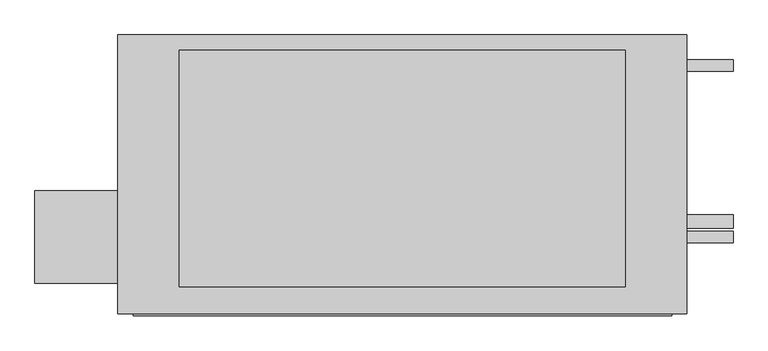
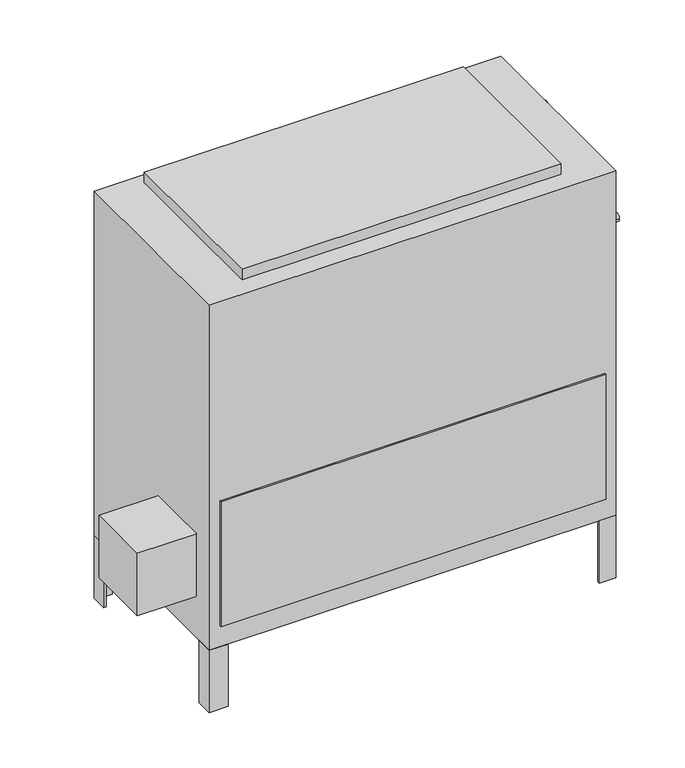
"""IFC4 building model written with IfcOpenShell, lengths in millimetres: proxy geometry, Concealed_High_Capacity_Vertical_Fan_Coil_Unit_-_42DDA_-_CARRIER_-_2-Pipe_Cool-EHeat_RH_2022 : Size 12 - 277v/60Hz/1Ph - 6 Row 9.0kW."""

from ifc_helpers import new_model, si_unit, point, frame, frame_2d, origin, origin_with_axes, place, context, project, spatial, polyline, circle_curve, trimmed, segment, composite_curve, outline, extrude, source, transform, mapped, element, save


def mechanical_equipment_580314c3(model_context):
    return source(origin(), model_context, "Body", "SweptSolid", [
        extrude(outline(polyline([(-454.025, -417.5125), (-454.025, -265.1125), (-317.5, -265.1125), (-317.5, -417.5125), (-454.025, -417.5125)])), frame((0.0, 0.0, 101.6), z_axis=(0.0, 0.0, 1.0), x_axis=(1.0, 0.0, 0.0)), (0.0, 0.0, 1.0), 152.4),
        extrude(outline(polyline([(622.3, -46.0375), (615.95, -46.0375), (615.95, -14.2875), (584.2, -14.2875), (584.2, -7.9375), (622.3, -7.9375), (622.3, -46.0375)])), frame((0.0, 0.0, -152.4), z_axis=(0.0, 0.0, 1.0), x_axis=(1.0, 0.0, 0.0)), (0.0, 0.0, 1.0), 152.4),
        extrude(outline(polyline([(-279.4, -7.9375), (-279.4, -14.2875), (-311.15, -14.2875), (-311.15, -46.0375), (-317.5, -46.0375), (-317.5, -7.9375), (-279.4, -7.9375)])), frame((0.0, 0.0, -152.4), z_axis=(0.0, 0.0, 1.0), x_axis=(1.0, 0.0, 0.0)), (0.0, 0.0, 1.0), 152.4),
        extrude(outline(polyline([(584.2, -468.3125), (584.2, -461.9625), (615.95, -461.9625), (615.95, -430.2125), (622.3, -430.2125), (622.3, -468.3125), (584.2, -468.3125)])), frame((0.0, 0.0, -152.4), z_axis=(0.0, 0.0, 1.0), x_axis=(1.0, 0.0, 0.0)), (0.0, 0.0, 1.0), 152.4),
        extrude(outline(polyline([(-317.5, -428.1199163), (-311.15, -428.1199163), (-311.15, -461.9625), (-274.0318533, -461.9625), (-274.0318533, -468.3125), (-317.5, -468.3125), (-317.5, -428.1199163)])), frame((0.0, 0.0, -152.4), z_axis=(0.0, 0.0, 1.0), x_axis=(1.0, 0.0, 0.0)), (0.0, 0.0, 1.0), 152.4),
        extrude(outline(polyline([(520.7, -33.3375), (520.7, -423.8625), (-215.9, -423.8625), (-215.9, -33.3375), (520.7, -33.3375)])), frame((0.0, 0.0, 841.375), z_axis=(0.0, 0.0, 1.0), x_axis=(1.0, 0.0, 0.0)), (0.0, 0.0, 1.0), 25.4),
        extrude(outline(polyline([(596.9, -471.4875), (-292.1, -471.4875), (-292.1, -468.3125), (596.9, -468.3125), (596.9, -471.4875)])), frame((0.0, 0.0, 50.8), z_axis=(0.0, 0.0, 1.0), x_axis=(1.0, 0.0, 0.0)), (0.0, 0.0, 1.0), 304.8),
        extrude(outline(composite_curve([segment(trimmed(circle_curve(frame_2d((-58.7375, 727.075)), 9.525), [point((-49.2125, 727.075))], [point((-68.2625, 727.075))], False, "CARTESIAN"), True, "CONTINUOUS"), segment(trimmed(circle_curve(frame_2d((-58.7375, 727.075)), 9.525), [point((-68.2625, 727.075))], [point((-49.2125, 727.075))], False, "CARTESIAN"), True, "CONTINUOUS")], self_intersect=False)), frame((622.3, 0.0, 0.0), z_axis=(1.0, 0.0, 0.0), x_axis=(0.0, 1.0, 0.0)), (0.0, 0.0, 1.0), 76.2),
        extrude(outline(composite_curve([segment(trimmed(circle_curve(frame_2d((-341.3125, 625.475)), 9.525), [point((-331.7875, 625.475))], [point((-350.8375, 625.475))], False, "CARTESIAN"), True, "CONTINUOUS"), segment(trimmed(circle_curve(frame_2d((-341.3125, 625.475)), 9.525), [point((-350.8375, 625.475))], [point((-331.7875, 625.475))], False, "CARTESIAN"), True, "CONTINUOUS")], self_intersect=False)), frame((622.3, 0.0, 0.0), z_axis=(1.0, 0.0, 0.0), x_axis=(0.0, 1.0, 0.0)), (0.0, 0.0, 1.0), 76.2),
        extrude(outline(composite_curve([segment(trimmed(circle_curve(frame_2d((-315.9125, 536.575)), 11.1125), [point((-304.8, 536.575))], [point((-327.025, 536.575))], False, "CARTESIAN"), True, "CONTINUOUS"), segment(trimmed(circle_curve(frame_2d((-315.9125, 536.575)), 11.1125), [point((-327.025, 536.575))], [point((-304.8, 536.575))], False, "CARTESIAN"), True, "CONTINUOUS")], self_intersect=False)), frame((622.3, 0.0, 0.0), z_axis=(1.0, 0.0, 0.0), x_axis=(0.0, 1.0, 0.0)), (0.0, 0.0, 1.0), 76.2),
        extrude(outline(polyline([(622.3, -7.9375), (622.3, -468.3125), (-317.5, -468.3125), (-317.5, -7.9375), (622.3, -7.9375)])), origin_with_axes(), (0.0, 0.0, 1.0), 841.375),
    ])


if __name__ == "__main__":
    model = new_model("IFC4")
    model_context = context("Model", 3, world=origin())
    ifc_project = project(units=[si_unit("LENGTHUNIT", "METRE", prefix="MILLI")], contexts=[model_context])
    site = spatial("IfcSite", under=ifc_project)
    building = spatial("IfcBuilding", under=site)
    placement = place(None, origin())
    mechanical_equipment_shape = mechanical_equipment_580314c3(model_context)
    element("IfcBuildingElementProxy", 1, Name="Concealed_High_Capacity_Vertical_Fan_Coil_Unit_-_42DDA_-_CARRIER_-_2-Pipe_Cool-EHeat_RH_2022 : Size 12 - 277v/60Hz/1Ph - 6 Row 9.0kW", ObjectType="Concealed_High_Capacity_Vertical_Fan_Coil_Unit_-_42DDA_-_CARRIER_-_2-Pipe_Cool-EHeat_RH_2022 : Size 12 - 277v/60Hz/1Ph - 6 Row 9.0kW", at=placement, inside=building, context=model_context, shape_type="MappedRepresentation", body=[
        mapped(mechanical_equipment_shape, transform((0.0, 0.0, 0.0), x_axis=(1.0, 0.0, 0.0), y_axis=(0.0, 1.0, 0.0), z_axis=(0.0, 0.0, 1.0))),
    ])
    save(model, "model.ifc")
